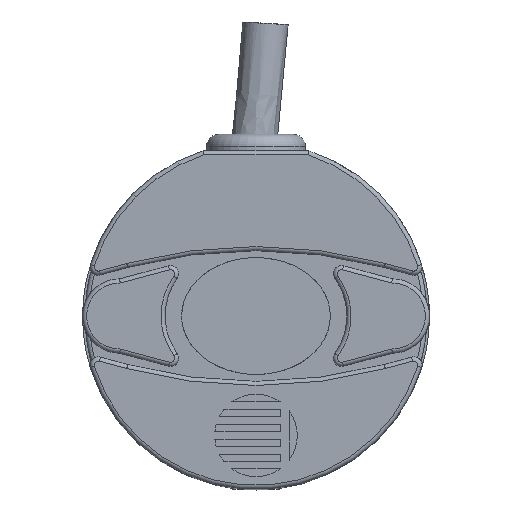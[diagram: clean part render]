
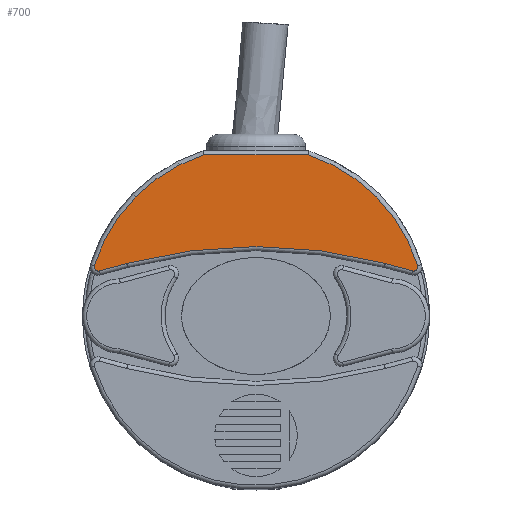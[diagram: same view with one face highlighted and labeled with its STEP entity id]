
A CAD part, top view. The second image highlights one B-rep face of the part: STEP entity #700.
In plain terms, the highlighted planar face has unit normal (0, 0, 1).
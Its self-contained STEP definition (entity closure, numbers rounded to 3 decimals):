
#700 = ADVANCED_FACE( '', ( #1543 ), #1544, .T. );
#1543 = FACE_OUTER_BOUND( '', #3903, .T. );
#1544 = PLANE( '', #3904 );
#3903 = EDGE_LOOP( '', ( #6946, #6947, #6948, #6949, #6950, #6951, #6952, #6953 ) );
#3904 = AXIS2_PLACEMENT_3D( '', #6954, #6955, #6956 );
#6946 = ORIENTED_EDGE( '', *, *, #8567, .T. );
#6947 = ORIENTED_EDGE( '', *, *, #8568, .T. );
#6948 = ORIENTED_EDGE( '', *, *, #8095, .T. );
#6949 = ORIENTED_EDGE( '', *, *, #8176, .T. );
#6950 = ORIENTED_EDGE( '', *, *, #8391, .T. );
#6951 = ORIENTED_EDGE( '', *, *, #8402, .T. );
#6952 = ORIENTED_EDGE( '', *, *, #8569, .T. );
#6953 = ORIENTED_EDGE( '', *, *, #8570, .T. );
#6954 = CARTESIAN_POINT( '', ( 19.096, 5.946, 42.5 ) );
#6955 = DIRECTION( '', ( 0., 0., 1. ) );
#6956 = DIRECTION( '', ( 1., 0., 0. ) );
#8095 = EDGE_CURVE( '', #9120, #9118, #9121, .T. );
#8176 = EDGE_CURVE( '', #9118, #9251, #9253, .T. );
#8391 = EDGE_CURVE( '', #9251, #9563, #9565, .T. );
#8402 = EDGE_CURVE( '', #9563, #9579, #9581, .T. );
#8567 = EDGE_CURVE( '', #9809, #9810, #9811, .T. );
#8568 = EDGE_CURVE( '', #9810, #9120, #9812, .T. );
#8569 = EDGE_CURVE( '', #9579, #9813, #9814, .T. );
#8570 = EDGE_CURVE( '', #9813, #9809, #9815, .T. );
#9118 = VERTEX_POINT( '', #10902 );
#9120 = VERTEX_POINT( '', #10904 );
#9121 = CIRCLE( '', #10905, 20.5 );
#9251 = VERTEX_POINT( '', #11129 );
#9253 = CIRCLE( '', #11131, 0.5 );
#9563 = VERTEX_POINT( '', #11893 );
#9565 = LINE( '', #11895, #11896 );
#9579 = VERTEX_POINT( '', #11915 );
#9581 = CIRCLE( '', #11917, 60.5 );
#9809 = VERTEX_POINT( '', #13194 );
#9810 = VERTEX_POINT( '', #13195 );
#9811 = CIRCLE( '', #13196, 20.5 );
#9812 = LINE( '', #13197, #13198 );
#9813 = VERTEX_POINT( '', #13199 );
#9814 = LINE( '', #13200, #13201 );
#9815 = CIRCLE( '', #13202, 0.5 );
#10902 = CARTESIAN_POINT( '', ( -19.573, 6.094, 42.5 ) );
#10904 = CARTESIAN_POINT( '', ( -6.325, 19.5, 42.5 ) );
#10905 = AXIS2_PLACEMENT_3D( '', #15043, #15044, #15045 );
#11129 = CARTESIAN_POINT( '', ( -18.966, 5.463, 42.5 ) );
#11131 = AXIS2_PLACEMENT_3D( '', #15154, #15155, #15156 );
#11893 = CARTESIAN_POINT( '', ( -15.659, 6.349, 42.5 ) );
#11895 = CARTESIAN_POINT( '', ( -15.659, 6.349, 42.5 ) );
#11896 = VECTOR( '', #15405, 1000. );
#11915 = CARTESIAN_POINT( '', ( 15.659, 6.349, 42.5 ) );
#11917 = AXIS2_PLACEMENT_3D( '', #15420, #15421, #15422 );
#13194 = CARTESIAN_POINT( '', ( 19.573, 6.094, 42.5 ) );
#13195 = CARTESIAN_POINT( '', ( 6.325, 19.5, 42.5 ) );
#13196 = AXIS2_PLACEMENT_3D( '', #15583, #15584, #15585 );
#13197 = CARTESIAN_POINT( '', ( 19.096, 19.5, 42.5 ) );
#13198 = VECTOR( '', #15586, 1000. );
#13199 = CARTESIAN_POINT( '', ( 18.966, 5.463, 42.5 ) );
#13200 = CARTESIAN_POINT( '', ( 18.966, 5.463, 42.5 ) );
#13201 = VECTOR( '', #15587, 1000. );
#13202 = AXIS2_PLACEMENT_3D( '', #15588, #15589, #15590 );
#15043 = CARTESIAN_POINT( '', ( 0., 0., 42.5 ) );
#15044 = DIRECTION( '', ( 0., 0., 1. ) );
#15045 = DIRECTION( '', ( 0., 1., 0. ) );
#15154 = CARTESIAN_POINT( '', ( -19.096, 5.946, 42.5 ) );
#15155 = DIRECTION( '', ( 0., 0., 1. ) );
#15156 = DIRECTION( '', ( 0., 1., 0. ) );
#15405 = DIRECTION( '', ( 0.966, 0.259, 0. ) );
#15420 = CARTESIAN_POINT( '', ( 0., -52.09, 42.5 ) );
#15421 = DIRECTION( '', ( 0., 0., -1. ) );
#15422 = DIRECTION( '', ( 0., 1., 0. ) );
#15583 = CARTESIAN_POINT( '', ( 0., 0., 42.5 ) );
#15584 = DIRECTION( '', ( 0., 0., 1. ) );
#15585 = DIRECTION( '', ( 0., 1., 0. ) );
#15586 = DIRECTION( '', ( -1., 0., 0. ) );
#15587 = DIRECTION( '', ( 0.966, -0.259, 0. ) );
#15588 = CARTESIAN_POINT( '', ( 19.096, 5.946, 42.5 ) );
#15589 = DIRECTION( '', ( 0., 0., 1. ) );
#15590 = DIRECTION( '', ( 0., 1., 0. ) );
